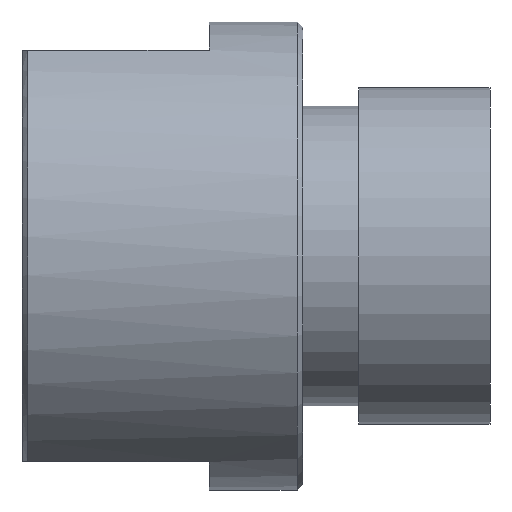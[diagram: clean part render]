
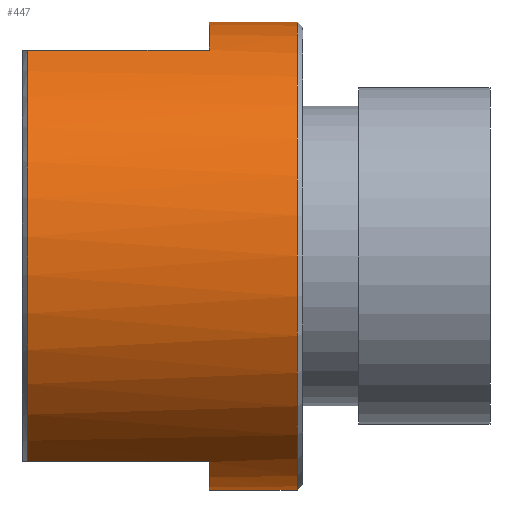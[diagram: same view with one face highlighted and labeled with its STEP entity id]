
A CAD part, left-side view. The second image highlights one B-rep face of the part: STEP entity #447.
In plain terms, the highlighted cylindrical face has radius 12.5 mm (diameter 25 mm), a partial arc.
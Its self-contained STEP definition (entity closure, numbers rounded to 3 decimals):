
#6 = LINE ( 'NONE', #53, #119 ) ;
#9 = DIRECTION ( 'NONE',  ( 0., -1., 0. ) ) ;
#13 = DIRECTION ( 'NONE',  ( 0., -1., 0. ) ) ;
#34 = EDGE_CURVE ( 'NONE', #729, #156, #792, .T. ) ;
#35 = CARTESIAN_POINT ( 'NONE',  ( 0., 15., 0. ) ) ;
#53 = CARTESIAN_POINT ( 'NONE',  ( -5.937, 15., -11. ) ) ;
#56 = EDGE_CURVE ( 'NONE', #518, #251, #216, .T. ) ;
#113 = DIRECTION ( 'NONE',  ( 0., -1., 0. ) ) ;
#119 = VECTOR ( 'NONE', #123, 1000. ) ;
#122 = EDGE_CURVE ( 'NONE', #812, #218, #326, .T. ) ;
#123 = DIRECTION ( 'NONE',  ( 0., 1., 0. ) ) ;
#125 = ORIENTED_EDGE ( 'NONE', *, *, #868, .T. ) ;
#131 = CIRCLE ( 'NONE', #381, 12.5 ) ;
#132 = CARTESIAN_POINT ( 'NONE',  ( 0., 5., -12.5 ) ) ;
#151 = EDGE_CURVE ( 'NONE', #518, #208, #703, .T. ) ;
#156 = VERTEX_POINT ( 'NONE', #498 ) ;
#171 = ORIENTED_EDGE ( 'NONE', *, *, #122, .T. ) ;
#208 = VERTEX_POINT ( 'NONE', #821 ) ;
#213 = DIRECTION ( 'NONE',  ( 0., 0., 1. ) ) ;
#216 = LINE ( 'NONE', #740, #558 ) ;
#218 = VERTEX_POINT ( 'NONE', #358 ) ;
#244 = DIRECTION ( 'NONE',  ( 0., 0., -1. ) ) ;
#251 = VERTEX_POINT ( 'NONE', #778 ) ;
#268 = FACE_OUTER_BOUND ( 'NONE', #538, .T. ) ;
#297 = EDGE_CURVE ( 'NONE', #783, #156, #6, .T. ) ;
#306 = ORIENTED_EDGE ( 'NONE', *, *, #56, .F. ) ;
#326 = LINE ( 'NONE', #419, #493 ) ;
#349 = CIRCLE ( 'NONE', #685, 12.5 ) ;
#350 = CARTESIAN_POINT ( 'NONE',  ( 0., 14.7, 0. ) ) ;
#351 = CARTESIAN_POINT ( 'NONE',  ( 0., 5., 0. ) ) ;
#358 = CARTESIAN_POINT ( 'NONE',  ( 0., 0.3, -12.5 ) ) ;
#365 = CARTESIAN_POINT ( 'NONE',  ( -5.937, 15., 11. ) ) ;
#381 = AXIS2_PLACEMENT_3D ( 'NONE', #750, #758, #630 ) ;
#389 = VECTOR ( 'NONE', #13, 1000. ) ;
#403 = EDGE_CURVE ( 'NONE', #729, #208, #848, .T. ) ;
#419 = CARTESIAN_POINT ( 'NONE',  ( 0., 15., -12.5 ) ) ;
#426 = DIRECTION ( 'NONE',  ( 0., -1., 0. ) ) ;
#432 = EDGE_CURVE ( 'NONE', #812, #783, #131, .T. ) ;
#447 = ADVANCED_FACE ( 'NONE', ( #268 ), #569, .T. ) ;
#493 = VECTOR ( 'NONE', #426, 1000. ) ;
#498 = CARTESIAN_POINT ( 'NONE',  ( -5.937, 14.7, -11. ) ) ;
#501 = DIRECTION ( 'NONE',  ( 0., -1., 0. ) ) ;
#517 = CARTESIAN_POINT ( 'NONE',  ( 0., 5., 12.5 ) ) ;
#518 = VERTEX_POINT ( 'NONE', #517 ) ;
#538 = EDGE_LOOP ( 'NONE', ( #306, #551, #716, #799, #691, #647, #171, #125 ) ) ;
#551 = ORIENTED_EDGE ( 'NONE', *, *, #151, .T. ) ;
#558 = VECTOR ( 'NONE', #675, 1000. ) ;
#559 = AXIS2_PLACEMENT_3D ( 'NONE', #351, #9, #629 ) ;
#569 = CYLINDRICAL_SURFACE ( 'NONE', #621, 12.5 ) ;
#572 = DIRECTION ( 'NONE',  ( 0., 0., 1. ) ) ;
#579 = CARTESIAN_POINT ( 'NONE',  ( 0., 0.3, 0. ) ) ;
#621 = AXIS2_PLACEMENT_3D ( 'NONE', #35, #113, #244 ) ;
#625 = AXIS2_PLACEMENT_3D ( 'NONE', #350, #501, #213 ) ;
#629 = DIRECTION ( 'NONE',  ( 0., 0., -1. ) ) ;
#630 = DIRECTION ( 'NONE',  ( -1., 0., 0. ) ) ;
#644 = DIRECTION ( 'NONE',  ( 0., 1., 0. ) ) ;
#647 = ORIENTED_EDGE ( 'NONE', *, *, #432, .F. ) ;
#675 = DIRECTION ( 'NONE',  ( 0., -1., 0. ) ) ;
#685 = AXIS2_PLACEMENT_3D ( 'NONE', #579, #644, #572 ) ;
#691 = ORIENTED_EDGE ( 'NONE', *, *, #297, .F. ) ;
#703 = CIRCLE ( 'NONE', #559, 12.5 ) ;
#716 = ORIENTED_EDGE ( 'NONE', *, *, #403, .F. ) ;
#729 = VERTEX_POINT ( 'NONE', #802 ) ;
#737 = CARTESIAN_POINT ( 'NONE',  ( -5.937, 5., -11. ) ) ;
#740 = CARTESIAN_POINT ( 'NONE',  ( 0., 15., 12.5 ) ) ;
#750 = CARTESIAN_POINT ( 'NONE',  ( 0., 5., 0. ) ) ;
#758 = DIRECTION ( 'NONE',  ( 0., 1., 0. ) ) ;
#778 = CARTESIAN_POINT ( 'NONE',  ( 0., 0.3, 12.5 ) ) ;
#783 = VERTEX_POINT ( 'NONE', #737 ) ;
#792 = CIRCLE ( 'NONE', #625, 12.5 ) ;
#799 = ORIENTED_EDGE ( 'NONE', *, *, #34, .T. ) ;
#802 = CARTESIAN_POINT ( 'NONE',  ( -5.937, 14.7, 11. ) ) ;
#812 = VERTEX_POINT ( 'NONE', #132 ) ;
#821 = CARTESIAN_POINT ( 'NONE',  ( -5.937, 5., 11. ) ) ;
#848 = LINE ( 'NONE', #365, #389 ) ;
#868 = EDGE_CURVE ( 'NONE', #218, #251, #349, .T. ) ;
